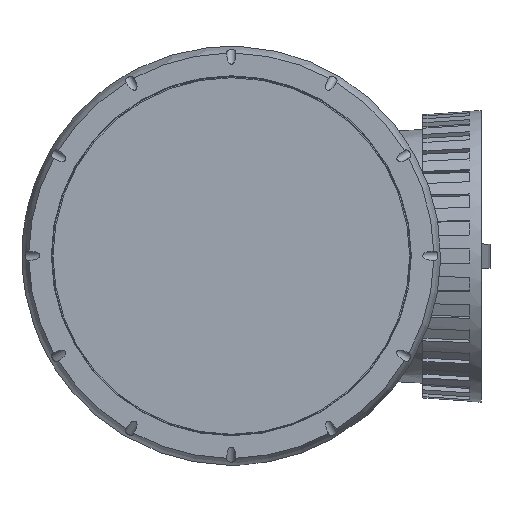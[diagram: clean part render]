
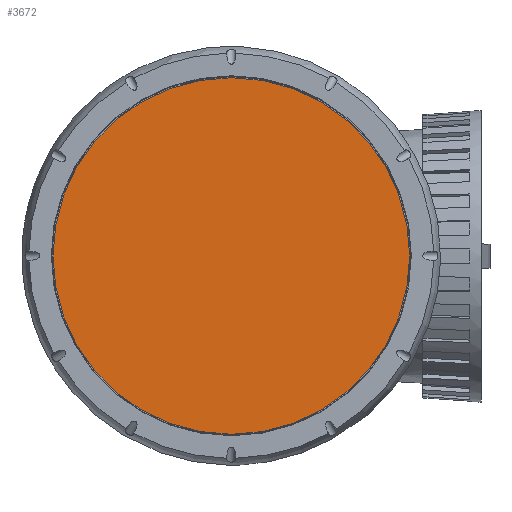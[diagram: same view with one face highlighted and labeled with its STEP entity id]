
A CAD part, top view. The second image highlights one B-rep face of the part: STEP entity #3672.
In plain terms, the highlighted planar face has unit normal (0, 0, 1).
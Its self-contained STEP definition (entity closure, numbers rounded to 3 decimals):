
#722=PLANE('',#3895);
#915=FACE_OUTER_BOUND('',#1126,.T.);
#1126=EDGE_LOOP('',(#2388));
#1354=CIRCLE('',#3892,80.1);
#1476=VERTEX_POINT('',#5224);
#1844=EDGE_CURVE('',#1476,#1476,#1354,.T.);
#2388=ORIENTED_EDGE('',*,*,#1844,.T.);
#3672=ADVANCED_FACE('',(#915),#722,.T.);
#3892=AXIS2_PLACEMENT_3D('',#5225,#4226,#4227);
#3895=AXIS2_PLACEMENT_3D('',#5229,#4232,#4233);
#4226=DIRECTION('center_axis',(0.,0.,1.));
#4227=DIRECTION('ref_axis',(-1.,0.,0.));
#4232=DIRECTION('center_axis',(0.,0.,1.));
#4233=DIRECTION('ref_axis',(1.,0.,0.));
#5224=CARTESIAN_POINT('',(80.1,0.,236.6));
#5225=CARTESIAN_POINT('Origin',(0.,0.,236.6));
#5229=CARTESIAN_POINT('Origin',(0.,0.,
236.6));
